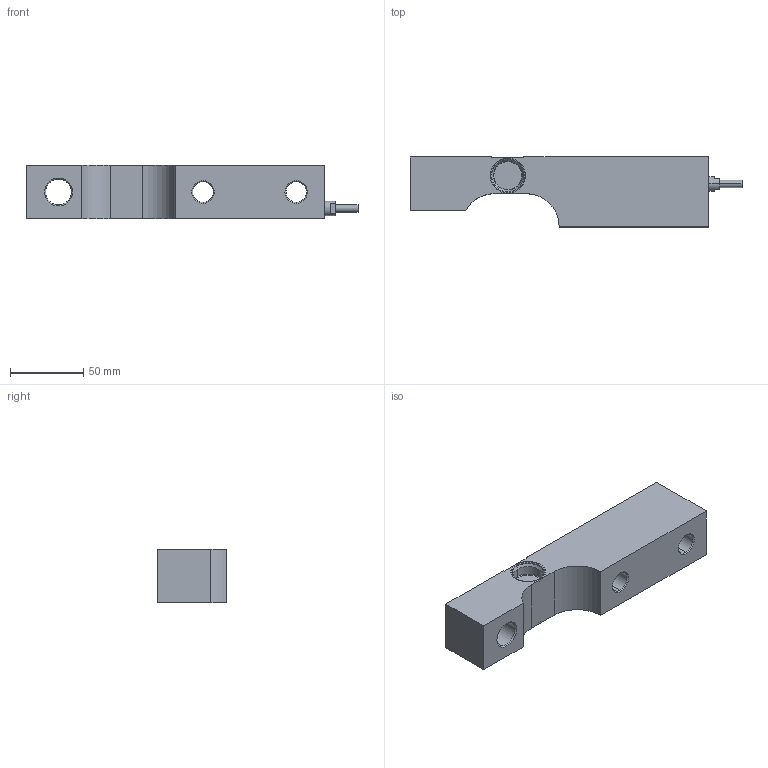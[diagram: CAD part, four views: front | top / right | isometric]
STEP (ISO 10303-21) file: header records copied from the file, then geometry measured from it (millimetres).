
FILE_DESCRIPTION (( 'STEP AP214' ), '1' );
FILE_NAME ('BM8G 0.5t.STEP', '2023-12-14T10:50:28', ( '' ), ( '' ), 'SwSTEP 2.0', 'SolidWorks 2023', '' );
FILE_SCHEMA (( 'AUTOMOTIVE_DESIGN' ));
Length unit declared in the file: millimetre
Products named in the file (6): J-Box cover; BM8G 0.5t; BM8G conduit adaptor; Cable part; BM8G Gage cup 0.5t; BM8G 0.5t element
Assembly tree (6 placements, depth 2):
  BM8G 0.5t
    BM8G 0.5t element
    BM8G Gage cup 0.5t  x2
    J-Box cover
    Cable part
    BM8G conduit adaptor
Bounding box: 226.2 x 47.63 x 36.48 mm (x, y, z)
Volume: 245048.9 mm3; surface area: 50031.2 mm2
Topology: 6 solids, 6 shells, 127 faces, 274 edges, 165 vertices
Faces by surface type: cylinder 44, plane 36, cone 31, torus 16
Entity records: 3174 total; most frequent: DIRECTION 587, CARTESIAN_POINT 504, ORIENTED_EDGE 468, AXIS2_PLACEMENT_3D 242, EDGE_CURVE 234, VERTEX_POINT 143, CIRCLE 127, EDGE_LOOP 121
